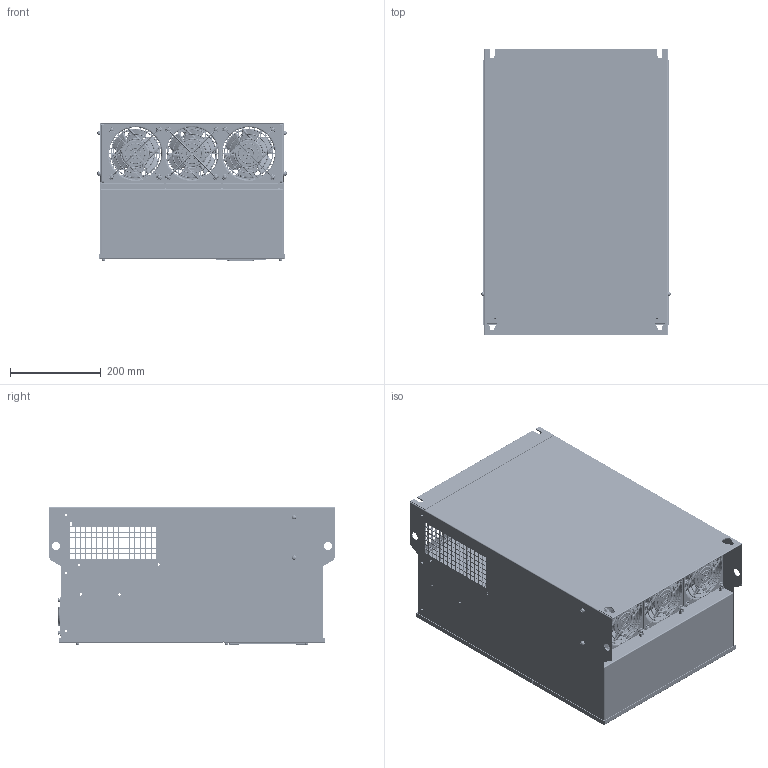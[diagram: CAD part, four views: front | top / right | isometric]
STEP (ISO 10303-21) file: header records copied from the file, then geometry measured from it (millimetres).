
FILE_DESCRIPTION((''),'2;1');
FILE_NAME('00-C6QS03_ASM_ASM','2024-05-23T',('Lenovo'),(''),'CREO PARAMETRIC BY PTC INC, 2016130','CREO PARAMETRIC BY PTC INC, 2016130','');
FILE_SCHEMA(('CONFIG_CONTROL_DESIGN'));
Products named in the file (85): C6QS00-0301-01_5; MZJ-S-M4-ZC_1_1_2; C6QS00-0301-01_ASM_3_ASM; C6QS01-0301-02_3; 004_1; MZJ-S-M5-ZC_1_1_2_3; C6QS01-0301-02_ASM_3_ASM; C6QS03-0301-02_ASM_3_ASM; C6Q00-0301-03_1; MZJ-S-M4-ZC_1; C6Q00-0301-03_ASM_2_ASM; C6Q00-0301-05_1; C6Q00-0301-05_ASM_4_ASM; C6Q00-0301-08_1; MZJ-S-M8-ZC_1; MZJ-S-M5-ZC_1; C6Q00-0301-08-G01_ASM_2_ASM; C6QS00-0301-07-01_4; C6QS00-0301-07_ASM_4_ASM; C6QS00-0301-06_1; C6Q00-0301-09_1; C6QS03-0301_ASM_8_ASM; C6QS01-0302_2; C6QS01-0302_ASM_4_ASM; C6QS00-0308_1; C6QS00-0308_ASM_4_ASM; C6QS01-0303_2; C6QS01-0303_ASM_4_ASM; C6QS02-0305-01_4; MZJ-BSO-3_5M3-18-ZC_1_1_2; MZJ-S-M3-ZC_1_1_2_3; C6QS02-0305_ASM_4_ASM; C6QS03-0306-01_10; MZJ-BSO-3_5M3-12-ZC_1; C6QS03-0306_ASM_11_ASM; C6QS02-0307-01_3; C6QS02-0307_ASM_3_ASM; C6QS01-0309-01_3; C6QS01-0309-02_1; MZJ-BSO-M4-12-ZC-_1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
Assembly tree (366 placements, depth 7):
  00-C6QS03_ASM_ASM
    00-C6QS03_ASM_22_ASM
      C6QS03-03-00_ASM_13_ASM
        C6QS03-0301_ASM_8_ASM
          C6QS00-0301-01_ASM_3_ASM
            C6QS00-0301-01_5
            MZJ-S-M4-ZC_1_1_2  x6
          C6QS03-0301-02_ASM_3_ASM
            C6QS01-0301-02_3
            C6QS01-0301-02_ASM_3_ASM  x2
              004_1
              MZJ-S-M5-ZC_1_1_2_3
          C6Q00-0301-03_ASM_2_ASM  x2
            C6Q00-0301-03_1
            MZJ-S-M4-ZC_1
          C6Q00-0301-05_ASM_4_ASM  x4
            C6Q00-0301-05_1
            MZJ-S-M4-ZC_1
          C6Q00-0301-08-G01_ASM_2_ASM
            C6Q00-0301-08_1
            MZJ-S-M8-ZC_1  x2
            MZJ-S-M5-ZC_1  x2
          C6QS00-0301-07_ASM_4_ASM
            C6QS00-0301-07-01_4
          C6QS00-0301-06_1  x2
          C6Q00-0301-09_1
        C6QS01-0302_ASM_4_ASM
          C6QS01-0302_2
          MZJ-S-M5-ZC_1  x4
        C6QS00-0308_ASM_4_ASM
          C6QS00-0308_1
          MZJ-S-M5-ZC_1  x12
        C6QS01-0303_ASM_4_ASM
          C6QS01-0303_2
          MZJ-S-M4-ZC_1  x20
          MZJ-S-M5-ZC_1  x4
        C6QS02-0305_ASM_4_ASM
          C6QS02-0305-01_4
          MZJ-BSO-3_5M3-18-ZC_1_1_2  x8
          MZJ-S-M3-ZC_1_1_2_3
        C6QS03-0306_ASM_11_ASM
          C6QS03-0306-01_10
          MZJ-BSO-3_5M3-12-ZC_1  x6
        C6QS02-0307_ASM_3_ASM
          C6QS02-0307-01_3
          MZJ-S-M5-ZC_1  x4
          MZJ-S-M4-ZC_1  x12
        C6QS01-0309_ASM_3_ASM
          C6QS01-0309-01_3
          C6QS01-0309-02_1
          MZJ-BSO-M4-12-ZC-_1
        C6QS01--0310_ASM_3_ASM
          C6QS01-0310-01_3
          C6QS01-0310-02_1
        C6Q00-0311_1
        200A-JIECHUQIZHIJIA_1
        C6Q00-0312-G01_2
      QIJIAN_ASM_2_ASM
        FENGSHAN-120_38_1  x3
        FAN-COVER_1_ASM  x3
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Bounding box: 417.91 x 633 x 306.48 mm (x, y, z)
Volume: 3343732.4 mm3; surface area: 3861974 mm2
Topology: 363 solids, 373 shells, 17917 faces, 46480 edges, 29924 vertices
Faces by surface type: plane 11859, cylinder 3492, cone 1029, torus 755, bspline 440, sphere 252, revolution 48, extrusion 42
Entity records: 218468 total; most frequent: CARTESIAN_POINT 48382, ORIENTED_EDGE 34836, DIRECTION 34182, EDGE_CURVE 17418, VECTOR 13110, LINE 13096, VERTEX_POINT 11258, AXIS2_PLACEMENT_3D 10528
